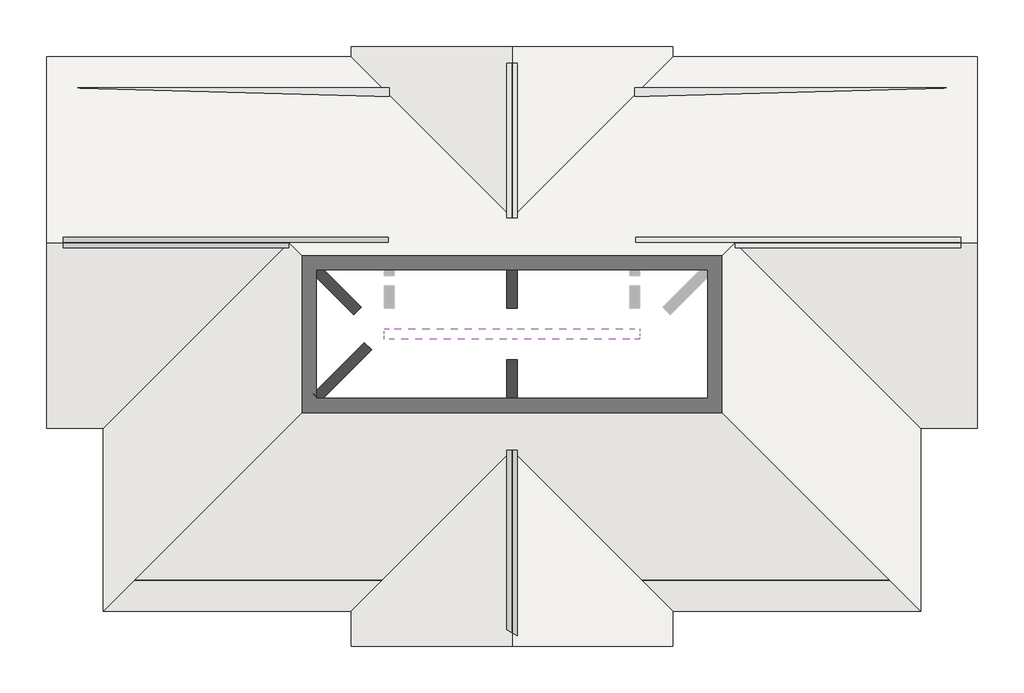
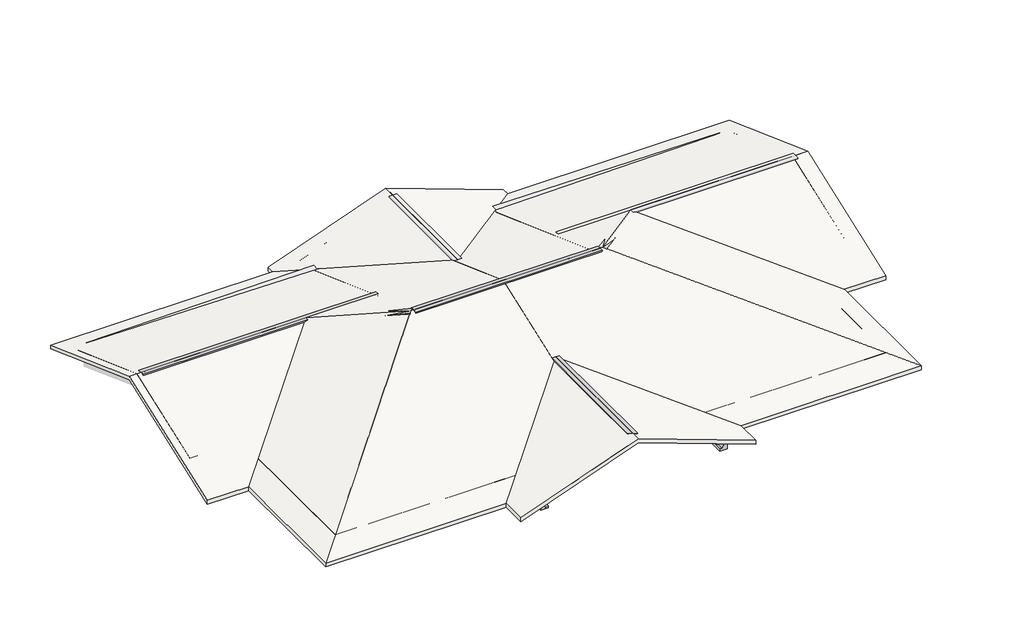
# One storey, part 1 of 2: 14 beams, 1 roof.
"""IFC4 building model written with IfcOpenShell, lengths in millimetres."""

from ifc_helpers import new_model, si_unit, origin, place, context, project, spatial, faceted_brep, element, save

model = new_model("IFC4")

# Units and contexts
model_context = context("Model", 3, world=origin())
ifc_project = project(units=[si_unit("LENGTHUNIT", "METRE", prefix="MILLI")], contexts=[model_context])

# Site, building, storey
site = spatial("IfcSite", under=ifc_project)
building = spatial("IfcBuilding", under=site)
storey = spatial("IfcBuildingStorey", under=building, Name="屋顶", Elevation=7000.0)

# Beams
placement = place(None, origin())
element("IfcBeam", 1, ObjectType="混凝土 - 矩形梁 : 200X400", at=placement, inside=storey, context=model_context, shape_type="Brep", body=[
    faceted_brep([(-13244.5197818, -2604.7602856, 7218.7520845), (-13244.5197818, -253.9538269, 8074.3756619), (-13244.5197818, -153.9538269, 8110.7726853), (-13444.5197818, -153.9538269, 8110.7726853), (-13444.5197818, -2604.7602856, 7218.7520845), (-13444.5197818, -273.6608771, 7781.8802681), (-13444.5197818, -153.9538269, 7738.310465), (-13444.5197818, -2373.9538269, 6930.2965449), (-13444.5197818, -2373.9538269, 7196.340988), (-13444.5197818, -2604.7602856, 7196.340988), (-13244.5197818, -2373.9538269, 6930.2965449), (-13244.5197818, -153.9538269, 7738.310465), (-13244.5197818, -2604.7602856, 7196.340988), (-13244.5197818, -2373.9538269, 7196.340988), (-13244.5197818, -273.6608771, 7781.8802681)], [[[0, 1, 2, 3, 4]], [[4, 3, 5, 6, 7, 8, 9]], [[10, 7, 6, 11]], [[2, 1, 0, 12, 13, 10, 11, 14]], [[0, 4, 9, 12]], [[13, 8, 7, 10]], [[8, 13, 12, 9]], [[5, 14, 11, 6]], [[14, 5, 3, 2]]]),
])
element("IfcBeam", 2, ObjectType="混凝土 - 矩形梁 : 200X400", at=placement, inside=storey, context=model_context, shape_type="Brep", body=[
    faceted_brep([(-7024.5197818, -53.9538269, 8111.0), (-7024.5197818, -154.5783688, 8111.0), (-7024.5197818, -253.9538269, 8111.0), (-7024.5197818, -253.9538269, 7774.7074884), (-7024.5197818, -253.9538269, 7761.0), (-7024.5197818, -216.292812, 7761.0), (-7024.5197818, -53.9538269, 7761.0), (-7024.5197818, -53.9538269, 8074.3756619), (-13324.5197818, -53.9538269, 8111.0), (-13324.5197818, -253.9538269, 8111.0), (-7104.5197818, -253.9538269, 8111.0), (-13324.5197818, -253.9538269, 8074.3756619), (-13244.5197818, -253.9538269, 8074.3756619), (-13244.5197818, -253.9538269, 7761.0), (-9185.941138, -253.9538269, 7761.0), (-8903.0984255, -253.9538269, 7761.0), (-8902.0300129, -253.9538269, 7761.0), (-8703.0984255, -253.9538269, 7761.0), (-13244.5197818, -53.9538269, 7761.0), (-8985.941138, -53.9538269, 7761.0), (-8955.9458389, -53.9538269, 7761.0), (-7104.5197818, -53.9538269, 7761.0), (-13244.5197818, -53.9538269, 8074.3756619), (-13324.5197818, -53.9538269, 8074.3756619), (-13244.5197818, -153.9538269, 8110.7726853), (-13324.5197818, -153.9538269, 8110.7726853)], [[[0, 1, 2, 3, 4, 5, 6, 7]], [[2, 1, 0, 8, 9, 10]], [[4, 3, 2, 10, 9, 11, 12, 13, 14, 15, 16, 17]], [[6, 5, 4, 17, 16, 15, 14, 13, 18, 19, 20, 21]], [[0, 7, 6, 21, 20, 19, 18, 22, 23, 8]], [[22, 24, 25, 23]], [[24, 22, 18, 13, 12]], [[9, 8, 23, 25, 11]], [[24, 12, 11, 25]]]),
])
element("IfcBeam", 3, ObjectType="混凝土 - 矩形梁 : 200X400", at=placement, inside=storey, context=model_context, shape_type="Brep", body=[
    faceted_brep([(-2144.5197818, -2023.9538269, 8418.9348031), (-2144.5197818, -2023.9538269, 8405.0), (-2144.5197818, -1995.3751832, 8405.0), (-2144.5197818, -1985.6682702, 8405.0), (-7104.5197818, -1985.6682702, 8405.0), (-7104.5197818, -1995.3751832, 8405.0), (-7104.5197818, -2023.9538269, 8405.0), (-7104.5197818, -2023.9538269, 8418.9348031), (-2144.5197818, -1823.9538269, 8755.0), (-7104.5197818, -1823.9538269, 8755.0), (-7104.5197818, -1923.9538269, 8755.0), (-7104.5197818, -2023.9538269, 8755.0), (-2144.5197818, -2023.9538269, 8755.0), (-2144.5197818, -1923.9538269, 8755.0), (-7104.5197818, -2023.9538269, 8480.2522581), (-6904.5197818, -2023.9538269, 8480.2522581), (-6904.5197818, -2023.9538269, 8418.9348031), (-4724.5197818, -2023.9538269, 8405.0), (-4524.5197818, -2023.9538269, 8405.0), (-2344.5197818, -2023.9538269, 8418.9348031), (-2344.5197818, -2023.9538269, 8480.2522581), (-2144.5197818, -2023.9538269, 8480.2522581), (-7094.8128688, -1985.6682702, 8405.0), (-6904.5197818, -1985.6682702, 8405.0), (-6904.5197818, -1823.9538269, 8405.0), (-4724.5197818, -1823.9538269, 8405.0), (-4524.5197818, -1823.9538269, 8405.0), (-2344.5197818, -1823.9538269, 8405.0), (-2344.5197818, -1985.6682702, 8405.0), (-2154.2266948, -1985.6682702, 8405.0), (-2144.5197818, -1823.9538269, 8718.6029766), (-2344.5197818, -1823.9538269, 8718.6029766), (-6904.5197818, -1823.9538269, 8718.6029766), (-7104.5197818, -1823.9538269, 8718.6029766), (-6904.5197818, -1923.9538269, 8755.0), (-2344.5197818, -1923.9538269, 8755.0)], [[[0, 1, 2, 3]], [[4, 5, 6, 7]], [[8, 9, 10, 11, 12, 13]], [[12, 11, 14, 15, 16, 7, 6, 17, 18, 1, 0, 19, 20, 21]], [[1, 18, 17, 6, 5, 4, 22, 23, 24, 25, 26, 27, 28, 29, 3, 2]], [[9, 8, 30, 31, 27, 26, 25, 24, 32, 33]], [[10, 34, 15, 14]], [[34, 10, 33, 32]], [[16, 23, 22, 4, 7]], [[15, 34, 32, 24, 23, 16]], [[14, 11, 10]], [[9, 33, 10]], [[35, 13, 21, 20]], [[13, 35, 31, 30]], [[28, 19, 0, 3, 29]], [[35, 20, 19, 28, 27, 31]], [[13, 12, 21]], [[8, 13, 30]]]),
])
element("IfcBeam", 4, ObjectType="混凝土 - 矩形梁 : 200X400", at=placement, inside=storey, context=model_context, shape_type="Brep", body=[
    faceted_brep([(-4524.5197818, 326.0461731, 7936.0669729), (-4524.5197818, 206.3391229, 7607.1745556), (-4602.8054757, 206.3391229, 7607.1745556), (-4525.5720179, 283.5725807, 7819.3717369), (-4624.5197818, 289.719449, 7836.2601188), (-4723.4675456, 283.5725807, 7819.3717369), (-4646.2340878, 206.3391229, 7607.1745556), (-4724.5197818, 206.3391229, 7607.1745556), (-4724.5197818, 326.0461731, 7936.0669729), (-4724.5197818, -1823.9538269, 8718.6029766), (-4524.5197818, -1823.9538269, 8718.6029766), (-4624.5197818, 184.6248168, 7855.3857777), (-4624.5197818, 184.6248168, 7615.0779167), (-4524.5197818, -1823.9538269, 8405.0), (-4724.5197818, -1823.9538269, 8405.0), (-4724.5197818, -1985.6682702, 8405.0), (-4524.5197818, -1985.6682702, 8405.0), (-4724.5197818, -1923.9538269, 8382.5377796), (-4524.5197818, -1923.9538269, 8382.5377796)], [[[0, 1, 2, 3, 4, 5, 6, 7, 8]], [[0, 8, 9, 10]], [[11, 5, 4]], [[5, 11, 12, 6]], [[3, 11, 4]], [[11, 3, 2, 12]], [[13, 14, 15, 16]], [[14, 13, 10, 9]], [[8, 7, 17, 15, 14, 9]], [[7, 6, 12, 2, 1, 18, 16, 15, 17]], [[1, 0, 10, 13, 16, 18]]]),
    faceted_brep([(-4724.5197818, -2043.6608771, 8426.1075827), (-4724.5197818, -2023.9538269, 8480.2522581), (-4724.5197818, -2023.9538269, 8418.9348031), (-4524.5197818, -2043.6608771, 8426.1075827), (-4524.5197818, -2023.9538269, 8418.9348031), (-4524.5197818, -2023.9538269, 8480.2522581)], [[[0, 1, 2]], [[3, 0, 2, 4]], [[5, 3, 4]], [[2, 1, 5, 4]], [[0, 3, 5, 1]]]),
])
element("IfcBeam", 5, ObjectType="混凝土 - 矩形梁 : 200X400", at=placement, inside=storey, context=model_context, shape_type="Brep", body=[
    faceted_brep([(-11744.5197818, -2773.9538269, 7000.0), (-11744.5197818, -2573.9538269, 7000.0), (-11944.5197818, -2573.9538269, 7000.0), (-13204.5197818, -2573.9538269, 7000.0), (-13204.5197818, -2773.9538269, 7000.0), (-11944.5197818, -2773.9538269, 7000.0), (-11744.5197818, -2773.9538269, 6650.0), (-11744.5197818, -2773.9538269, 6669.0), (-13204.5197818, -2773.9538269, 6650.0), (-11744.5197818, -2573.9538269, 6650.0), (-13204.5197818, -2573.9538269, 6650.0)], [[[0, 1, 2, 3, 4, 5]], [[6, 7, 0, 5, 4, 8]], [[9, 6, 8, 10]], [[1, 9, 10, 3, 2]], [[4, 3, 10, 8]], [[1, 0, 7, 6, 9]]]),
])
element("IfcBeam", 6, ObjectType="混凝土 - 矩形梁 : 200X400", at=placement, inside=storey, context=model_context, shape_type="Brep", body=[
    faceted_brep([(-11944.5197818, -2573.9538269, 7019.0), (-11944.5197818, -6693.9538269, 7019.0), (-11744.5197818, -6493.9538269, 7019.0), (-11744.5197818, -2573.9538269, 7019.0), (-11744.5197818, -6453.9538269, 6999.7970615), (-11744.5197818, -6453.9538269, 6992.5176568), (-11744.5197818, -6453.9538269, 6669.0), (-11744.5197818, -6352.5324707, 6669.0), (-11744.5197818, -3095.3751832, 6669.0), (-11744.5197818, -2812.5324707, 6669.0), (-11744.5197818, -2773.9538269, 6669.0), (-11744.5197818, -2773.9538269, 7000.0), (-11744.5197818, -2573.9538269, 7000.0), (-11744.5197818, -6493.9538269, 6999.7970615), (-11845.941138, -6453.9538269, 6669.0), (-11944.5197818, -6453.9538269, 6669.0), (-11944.5197818, -3034.8297629, 6669.0), (-11944.5197818, -3012.5324707, 6669.0), (-11944.5197818, -2773.9538269, 6669.0), (-11944.5197818, -6453.9538269, 6999.7970615), (-11944.5197818, -6693.9538269, 6999.7970615), (-11944.5197818, -2573.9538269, 7000.0), (-11944.5197818, -2773.9538269, 7000.0)], [[[0, 1, 2, 3]], [[4, 5, 6, 7, 8, 9, 10, 11, 12, 3, 2, 13]], [[6, 14, 15, 16, 17, 18, 10, 9, 8, 7]], [[15, 19, 20, 1, 0, 21, 22, 18, 17, 16]], [[4, 19, 15, 14, 6, 5]], [[19, 4, 13, 20]], [[0, 3, 12, 21]], [[11, 22, 21, 12]], [[22, 11, 10, 18]], [[2, 1, 20, 13]]]),
])
element("IfcBeam", 7, ObjectType="混凝土 - 矩形梁 : 200X400", at=placement, inside=storey, context=model_context, shape_type="Brep", body=[
    faceted_brep([(-11744.5197818, -6493.9538269, 7019.0), (-11944.5197818, -6693.9538269, 7019.0), (-7144.5197818, -6693.9538269, 7019.0), (-7144.5197818, -6493.9538269, 7019.0), (-11544.5197818, -6693.9538269, 6999.7970615), (-11544.5197818, -6693.9538269, 6669.0), (-7144.5197818, -6693.9538269, 6669.0), (-11944.5197818, -6693.9538269, 6999.7970615), (-11544.5197818, -6493.9538269, 6669.0), (-7144.5197818, -6493.9538269, 6669.0), (-11544.5197818, -6493.9538269, 6999.7970615), (-11603.0984255, -6493.9538269, 6999.7970615), (-11664.5197818, -6493.9538269, 6999.7970615), (-11744.5197818, -6493.9538269, 6999.7970615)], [[[0, 1, 2, 3]], [[4, 5, 6, 2, 1, 7]], [[5, 8, 9, 6]], [[8, 10, 11, 12, 13, 0, 3, 9]], [[4, 10, 8, 5]], [[10, 4, 7, 13, 12, 11]], [[3, 2, 6, 9]], [[1, 0, 13, 7]]]),
])
element("IfcBeam", 8, ObjectType="混凝土 - 矩形梁 : 200X400", at=placement, inside=storey, context=model_context, shape_type="Brep", body=[
    faceted_brep([(-4524.5197818, -3973.9538269, 7936.0669729), (-4724.5197818, -3973.9538269, 7936.0669729), (-4724.5197818, -4173.9538269, 7936.0669729), (-4724.5197818, -7651.7752293, 7936.0669729), (-4524.5197818, -7773.9538269, 7936.0669729), (-4524.5197818, -4173.9538269, 7936.0669729), (-4524.5197818, -3973.9538269, 7586.0669729), (-4524.5197818, -3973.9538269, 7636.3987994), (-4524.5197818, -7765.8610629, 7899.6699495), (-4524.5197818, -7699.2307843, 7600.001776), (-4524.5197818, -7696.1324245, 7586.0669729), (-4524.5197818, -7573.9538269, 7586.0669729), (-4524.5197818, -4511.9671376, 7586.0669729), (-4524.5197818, -4237.5206239, 7586.0669729), (-4724.5197818, -3973.9538269, 7586.0669729), (-4562.8053385, -7672.7440464, 7586.0669729), (-4624.5197818, -7635.0431257, 7586.0669729), (-4724.5197818, -7573.9538269, 7586.0669729), (-4724.5197818, -4511.9671376, 7586.0669729), (-4724.5197818, -4237.5206239, 7586.0669729), (-4724.5197818, -3973.9538269, 7636.3987994)], [[[0, 1, 2, 3, 4, 5]], [[6, 7, 0, 5, 4, 8, 9, 10, 11, 12, 13]], [[14, 6, 13, 12, 11, 10, 15, 16, 17, 18, 19]], [[1, 20, 14, 19, 18, 17, 3, 2]], [[3, 17, 16, 15, 10, 9, 8, 4]], [[1, 0, 7, 6, 14, 20]]]),
])
element("IfcBeam", 9, ObjectType="混凝土 - 矩形梁 : 200X400", at=placement, inside=storey, context=model_context, shape_type="Brep", body=[
    faceted_brep([(-4724.5197818, -4173.9538269, 7936.0669729), (-4680.0720654, -4173.9538269, 7936.0669729), (-4624.5197818, -4173.9538269, 7936.0669729), (-4568.9674982, -4173.9538269, 7936.0669729), (-4524.5197818, -4173.9538269, 7936.0669729), (-4524.5197818, -2023.9538269, 8718.6029766), (-4724.5197818, -2023.9538269, 8718.6029766), (-4524.5197818, -3973.9538269, 7636.3987994), (-4524.5197818, -1923.9538269, 8382.5377796), (-4524.5197818, -1985.6682702, 8405.0), (-4524.5197818, -2023.9538269, 8405.0), (-4524.5197818, -2023.9538269, 8418.9348031), (-4524.5197818, -2043.6608771, 8426.1075827), (-4524.5197818, -2023.9538269, 8480.2522581), (-4524.5197818, -3973.9538269, 7936.0669729), (-4724.5197818, -1923.9538269, 8382.5377796), (-4724.5197818, -3973.9538269, 7636.3987994), (-4724.5197818, -3973.9538269, 7936.0669729), (-4724.5197818, -2023.9538269, 8480.2522581), (-4724.5197818, -2043.6608771, 8426.1075827), (-4724.5197818, -2023.9538269, 8418.9348031), (-4724.5197818, -2023.9538269, 8405.0), (-4724.5197818, -1985.6682702, 8405.0)], [[[0, 1, 2, 3, 4, 5, 6]], [[7, 8, 9, 10, 11, 12, 13, 5, 4, 14]], [[15, 8, 7, 16]], [[15, 16, 17, 0, 6, 18, 19, 20, 21, 22]], [[19, 12, 11, 20]], [[12, 19, 18, 13]], [[17, 14, 4, 3, 2, 1, 0]], [[14, 17, 16, 7]], [[6, 5, 13, 18]], [[21, 10, 9, 22]], [[8, 15, 22, 9]], [[10, 21, 20, 11]]]),
])
element("IfcBeam", 10, ObjectType="混凝土 - 矩形梁 : 200X400", at=placement, inside=storey, context=model_context, shape_type="Brep", body=[
    faceted_brep([(-7042.1244673, -1932.9798687, 8309.6279319), (-7183.5458236, -1791.5585125, 8309.6279319), (-7192.6244815, -1800.6371704, 8359.5147471), (-7245.2304599, -1853.2431488, 8648.5822228), (-7151.7221899, -1946.7514188, 8648.5822228), (-7104.5197818, -1993.9538269, 8648.5822228), (-7104.5197818, -1950.3866983, 8528.8825206), (-7104.5197818, -1903.5020917, 8400.0681226), (-7104.5197818, -1893.024185, 8371.2803106), (-7056.974455, -1947.8298564, 8391.2279437), (-11704.5197818, -6453.9538269, 6999.7970615), (-11664.5197818, -6493.9538269, 6999.7970615), (-11603.0984255, -6493.9538269, 7010.9748342), (-7104.5197818, -1995.3751832, 8648.3235571), (-7315.941138, -1923.9538269, 8622.8456407), (-11744.5197818, -6352.5324707, 7010.9748342), (-11744.5197818, -6453.9538269, 6992.5176568), (-11563.0984255, -6453.9538269, 6664.1279812), (-7094.8128688, -1985.6682702, 8405.0), (-7104.5197818, -1995.3751832, 8405.0), (-7104.5197818, -1995.3751832, 8419.5778433), (-7104.5197818, -1995.3751832, 8422.9550386), (-11603.0984255, -6493.9538269, 6999.7970615), (-11563.0984255, -6453.9538269, 6999.7970615), (-11845.941138, -6453.9538269, 6612.6548171), (-11845.941138, -6453.9538269, 6669.0), (-11744.5197818, -6352.5324707, 6669.0), (-11744.5197818, -6453.9538269, 6669.0), (-7104.5197818, -1985.6682702, 8405.0)], [[[0, 1, 2, 3, 4, 5, 6, 7, 8, 9]], [[10, 11, 12, 13, 5, 4, 3, 14, 15, 16]], [[17, 0, 9, 18, 19, 20, 21, 13, 12, 22, 23]], [[1, 0, 17, 24]], [[3, 2, 1, 24, 25, 26, 15, 14]], [[23, 10, 16, 27, 25, 24, 17]], [[10, 23, 22, 11]], [[12, 11, 22]], [[26, 27, 16, 15]], [[27, 26, 25]], [[19, 28, 8, 7, 6, 5, 13, 21, 20]], [[9, 8, 28, 18]], [[28, 19, 18]]]),
])
element("IfcBeam", 11, ObjectType="混凝土 - 矩形梁 : 200X400", at=placement, inside=storey, context=model_context, shape_type="Brep", body=[
    faceted_brep([(-7173.8619468, -2066.0330181, 8419.8572326), (-7104.5197818, -1996.6908531, 8419.8572326), (-7104.5197818, -1995.3751832, 8422.9550386), (-7174.5197818, -2065.3751832, 8422.9550386), (-7174.5197818, -2065.3751832, 8419.5778433), (-7104.5197818, -1995.3751832, 8419.5778433)], [[[0, 1, 2, 3]], [[0, 3, 4]], [[1, 0, 4, 5]], [[2, 1, 5]], [[3, 2, 5, 4]]]),
    faceted_brep([(-8784.4621672, -172.5900853, 7675.7557516), (-8925.8835234, -314.0114415, 7675.7557516), (-8944.5197818, -295.3751832, 7763.5156274), (-8985.941138, -253.9538269, 7958.5726504), (-8903.0984255, -253.9538269, 7763.5156274), (-8902.0300129, -253.9538269, 7761.0), (-8802.5642192, -154.4880333, 7761.0), (-7245.0455213, -1994.8494437, 8755.0673122), (-7103.624165, -1853.4280874, 8755.0673122), (-8703.0984255, -253.9538269, 8075.7542364), (-8985.941138, -253.9538269, 8015.6911402), (-8703.0984255, -253.9538269, 7761.0), (-7098.5509814, -1858.5012711, 8731.1772179), (-7104.5197818, -1852.5324707, 8729.0047522), (-7104.5197818, -1852.5324707, 8389.2444629), (-8985.941138, -253.9538269, 7978.618326), (-7104.5197818, -1863.6709351, 8733.0588217), (-7245.2304599, -1853.2431488, 8648.5822228), (-7192.6244815, -1800.6371704, 8359.5147471), (-7104.5197818, -1903.5020917, 8400.0681226), (-7104.5197818, -1950.3866983, 8528.8825206), (-7151.7221899, -1946.7514188, 8648.5822228), (-7216.9675732, -2022.9273917, 8622.8456407), (-7315.941138, -1923.9538269, 8622.8456407), (-7315.941138, -1923.9538269, 8359.5147471)], [[[0, 1, 2, 3, 4, 5, 6]], [[7, 8, 9, 10]], [[0, 6, 11, 9, 8, 12, 13, 14]], [[11, 5, 4, 3, 15, 10, 9]], [[5, 11, 6]], [[16, 13, 12]], [[17, 18, 19, 20, 21]], [[17, 21, 22, 23]], [[18, 17, 23, 24]], [[8, 7, 22, 21, 20, 16, 12]], [[3, 2, 1, 24, 23, 22, 7, 10, 15]], [[1, 0, 14, 19, 18, 24]], [[13, 16, 20, 19, 14]]]),
])
element("IfcBeam", 12, ObjectType="混凝土 - 矩形梁 : 200X400", at=placement, inside=storey, context=model_context, shape_type="Brep", body=[
    faceted_brep([(-8812.1244673, -162.9798687, 7665.4006173), (-8953.5458236, -21.5585125, 7665.4006173), (-8985.941138, -53.9538269, 7843.4114071), (-8955.9458389, -53.9538269, 7761.0), (-8829.5221322, -180.3775336, 7761.0), (-12000.9195633, -3068.9322522, 6917.6529457), (-11939.234927, -3007.2476159, 6578.6986548), (-11797.8135708, -3148.6689722, 6578.6986548), (-11814.2470717, -3165.102473, 6669.0), (-11944.5197818, -3034.8297629, 6669.0), (-11944.5197818, -3125.3320338, 6917.6529457), (-11944.5197818, -3012.5324707, 6938.1807874), (-8903.0984255, -253.9538269, 7761.0), (-8903.0984255, -253.9538269, 7763.5156274), (-8944.5197818, -295.3751832, 7763.5156274), (-8944.5197818, -295.3751832, 7978.618326), (-11744.5197818, -3095.3751832, 6959.5016701), (-11744.5197818, -3095.3751832, 6669.0), (-11944.5197818, -3012.5324707, 6669.0), (-11744.5197818, -2812.5324707, 6669.0), (-11744.5197818, -2812.5324707, 7010.9748342), (-9185.941138, -253.9538269, 7942.2213026), (-9185.941138, -253.9538269, 7761.0), (-8985.941138, -53.9538269, 7761.0), (-8985.941138, -253.9538269, 7978.618326), (-8985.941138, -253.9538269, 7958.5726504)], [[[0, 1, 2, 3, 4]], [[5, 6, 7, 8, 9, 10]], [[11, 5, 10]], [[7, 0, 4, 12, 13, 14, 15, 16, 17, 8]], [[1, 0, 7, 6]], [[6, 5, 11, 18, 19, 20, 21, 22, 23, 2, 1]], [[12, 22, 21, 24, 25, 13]], [[22, 12, 4, 3, 23]], [[23, 3, 2]], [[19, 17, 16, 20]], [[17, 19, 18, 9, 8]], [[9, 18, 11, 10]], [[21, 20, 16, 15, 24]], [[25, 14, 13]], [[14, 25, 24, 15]]]),
])
element("IfcBeam", 13, ObjectType="混凝土 - 矩形梁 : 200X400", at=placement, inside=storey, context=model_context, shape_type="Brep", body=[
    faceted_brep([(-7104.5197818, -7773.9538269, 7019.0), (-7104.5197818, -7773.9538269, 6669.0), (-6904.5197818, -7773.9538269, 6669.0), (-6904.5197818, -7773.9538269, 6733.7526184), (-6980.5080446, -7773.9538269, 6706.0951526), (-7094.3960952, -7773.9538269, 7019.0), (-7104.5197818, -6693.9538269, 7019.0), (-7094.3960952, -7573.9538269, 7019.0), (-6904.5197818, -7573.9538269, 7019.0), (-6904.5197818, -6693.9538269, 7019.0), (-6904.5197818, -6693.9538269, 6669.0), (-6904.5197818, -7573.9538269, 6733.7526184), (-7104.5197818, -6693.9538269, 6669.0), (-6980.5080446, -7573.9538269, 6706.0951526)], [[[0, 1, 2, 3, 4, 5]], [[6, 0, 5, 7, 8, 9]], [[2, 10, 9, 8, 11, 3]], [[2, 1, 12, 10]], [[1, 0, 6, 12]], [[12, 6, 9, 10]], [[4, 13, 7, 5]], [[7, 13, 11, 8]], [[13, 4, 3, 11]]]),
])
element("IfcBeam", 14, ObjectType="混凝土 - 矩形梁 : 200X400", at=placement, inside=storey, context=model_context, shape_type="Brep", body=[
    faceted_brep([(-2144.5197818, -7773.9538269, 6669.0), (-2144.5197818, -7773.9538269, 7019.0), (-2154.6434683, -7773.9538269, 7019.0), (-2268.531519, -7773.9538269, 6706.0951526), (-2344.5197818, -7773.9538269, 6733.7526184), (-2344.5197818, -7773.9538269, 6669.0), (-2144.5197818, -6693.9538269, 7019.0), (-2344.5197818, -6693.9538269, 7019.0), (-2344.5197818, -7573.9538269, 7019.0), (-2154.6434683, -7573.9538269, 7019.0), (-2344.5197818, -6693.9538269, 6669.0), (-2344.5197818, -7573.9538269, 6733.7526184), (-2144.5197818, -6693.9538269, 6669.0), (-2268.531519, -7573.9538269, 6706.0951526)], [[[0, 1, 2, 3, 4, 5]], [[1, 6, 7, 8, 9, 2]], [[10, 5, 4, 11, 8, 7]], [[0, 5, 10, 12]], [[1, 0, 12, 6]], [[6, 12, 10, 7]], [[13, 3, 2, 9]], [[13, 9, 8, 11]], [[3, 13, 11, 4]]]),
])

# Roof
element("IfcRoof", 15, ObjectType="常规 - 100mm", at=placement, inside=storey, context=model_context, shape_type="Brep", body=[
    faceted_brep([(-13644.5197818, -153.9538269, 8004.3549081), (-13644.5197818, 3446.0461731, 6694.0620647), (-7744.5197818, 3446.0461731, 6694.0620647), (-4624.5197818, 326.0461731, 7829.6491957), (-1504.5197818, 3446.0461731, 6694.0620647), (4395.4802182, 3446.0461731, 6694.0620647), (4395.4802182, -153.9538269, 8004.3549081), (-304.5197818, -153.9538269, 8004.3549081), (-2074.5197818, -1923.9538269, 8648.5822228), (-7174.5197818, -1923.9538269, 8648.5822228), (-8944.5197818, -153.9538269, 8004.3549081), (-7744.5197818, 3646.0461731, 6694.0620647), (-4624.5197818, 3646.0461731, 7829.6491957), (-12544.5197818, -3753.9538269, 6694.0620647), (-13644.5197818, -3753.9538269, 6694.0620647), (-12544.5197818, -7293.9538269, 6694.0620647), (-7744.5197818, -7293.9538269, 6694.0620647), (-4624.5197818, -4173.9538269, 7829.6491957), (-4624.5197818, -7973.9538269, 7829.6491957), (-7744.5197818, -7973.9538269, 6694.0620647), (-1504.5197818, 3646.0461731, 6694.0620647), (4395.4802182, -3753.9538269, 6694.0620647), (3295.4802182, -3753.9538269, 6694.0620647), (3295.4802182, -7293.9538269, 6694.0620647), (-1504.5197818, -7293.9538269, 6694.0620647), (-1504.5197818, -7973.9538269, 6694.0620647), (-13644.5197818, 3446.0461731, 6800.479842), (-13644.5197818, -153.9538269, 8110.7726853), (-8944.5197818, -153.9538269, 8110.7726853), (-7174.5197818, -1923.9538269, 8755.0), (-2074.5197818, -1923.9538269, 8755.0), (-304.5197818, -153.9538269, 8110.7726853), (4395.4802182, -153.9538269, 8110.7726853), (4395.4802182, 3446.0461731, 6800.479842), (-1504.5197818, 3446.0461731, 6800.479842), (-4624.5197818, 326.0461731, 7936.0669729), (-7744.5197818, 3446.0461731, 6800.479842), (-7744.5197818, 3646.0461731, 6800.479842), (-4624.5197818, 3646.0461731, 7936.0669729), (-13644.5197818, -3753.9538269, 6800.479842), (-12544.5197818, -3753.9538269, 6800.479842), (-12544.5197818, -7293.9538269, 6800.479842), (-7744.5197818, -7293.9538269, 6800.479842), (-7744.5197818, -7973.9538269, 6800.479842), (-4624.5197818, -7973.9538269, 7936.0669729), (-4624.5197818, -4173.9538269, 7936.0669729), (-1504.5197818, 3646.0461731, 6800.479842), (3295.4802182, -3753.9538269, 6800.479842), (4395.4802182, -3753.9538269, 6800.479842), (3295.4802182, -7293.9538269, 6800.479842), (-1504.5197818, -7293.9538269, 6800.479842), (-1504.5197818, -7973.9538269, 6800.479842)], [[[0, 1, 2, 3, 4, 5, 6, 7, 8, 9, 10]], [[2, 11, 12, 3]], [[13, 14, 0, 10]], [[15, 13, 10, 9]], [[16, 17, 18, 19]], [[20, 4, 3, 12]], [[21, 22, 7, 6]], [[22, 23, 8, 7]], [[15, 9, 8, 23, 24, 17, 16]], [[25, 18, 17, 24]], [[26, 27, 28, 29, 30, 31, 32, 33, 34, 35, 36]], [[37, 36, 35, 38]], [[39, 40, 28, 27]], [[40, 41, 29, 28]], [[42, 43, 44, 45]], [[34, 46, 38, 35]], [[47, 48, 32, 31]], [[49, 47, 31, 30]], [[41, 42, 45, 50, 49, 30, 29]], [[51, 50, 45, 44]], [[13, 40, 39, 14]], [[15, 41, 40, 13]], [[16, 42, 41, 15]], [[19, 43, 42, 16]], [[24, 50, 51, 25]], [[23, 49, 50, 24]], [[22, 47, 49, 23]], [[21, 48, 47, 22]], [[4, 34, 33, 5]], [[20, 46, 34, 4]], [[2, 36, 37, 11]], [[1, 26, 36, 2]], [[39, 27, 26, 1, 0, 14]], [[37, 38, 46, 20, 12, 11]], [[51, 44, 43, 19, 18, 25]], [[33, 32, 48, 21, 6, 5]]]),
])

save(model, "model.ifc")
